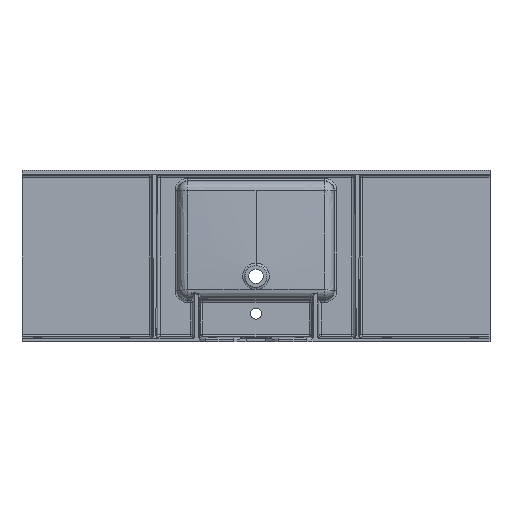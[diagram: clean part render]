
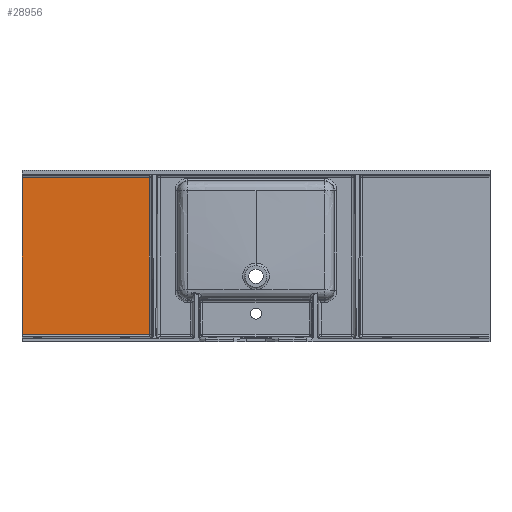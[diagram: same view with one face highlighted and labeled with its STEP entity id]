
A CAD part, front view. The second image highlights one B-rep face of the part: STEP entity #28956.
In plain terms, the highlighted planar face has unit normal (0, -1, 0).
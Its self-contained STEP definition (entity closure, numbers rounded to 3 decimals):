
#774 = DIRECTION ( 'NONE',  ( 0., 0., 1. ) ) ;
#1277 = VERTEX_POINT ( 'NONE', #11926 ) ;
#1398 = VERTEX_POINT ( 'NONE', #14676 ) ;
#1490 = DIRECTION ( 'NONE',  ( 0., 0., 1. ) ) ;
#1683 = EDGE_CURVE ( 'NONE', #1398, #12742, #12519, .T. ) ;
#2517 = EDGE_LOOP ( 'NONE', ( #10794, #17497, #27596, #13047 ) ) ;
#3067 = CARTESIAN_POINT ( 'NONE',  ( -342.68, -12., 0. ) ) ;
#3508 = DIRECTION ( 'NONE',  ( 0., 0., -1. ) ) ;
#4217 = CARTESIAN_POINT ( 'NONE',  ( 0., -12., 201.32 ) ) ;
#4484 = VERTEX_POINT ( 'NONE', #23701 ) ;
#4756 = AXIS2_PLACEMENT_3D ( 'NONE', #25158, #13342, #3508 ) ;
#6674 = DIRECTION ( 'NONE',  ( -1., 0., 0. ) ) ;
#8587 = PLANE ( 'NONE',  #4756 ) ;
#9239 = EDGE_CURVE ( 'NONE', #12742, #1277, #17041, .T. ) ;
#10794 = ORIENTED_EDGE ( 'NONE', *, *, #17439, .F. ) ;
#11926 = CARTESIAN_POINT ( 'NONE',  ( -342.68, -12., 201.32 ) ) ;
#12519 = LINE ( 'NONE', #24333, #18208 ) ;
#12742 = VERTEX_POINT ( 'NONE', #20775 ) ;
#13047 = ORIENTED_EDGE ( 'NONE', *, *, #15545, .T. ) ;
#13342 = DIRECTION ( 'NONE',  ( 0., -1., 0. ) ) ;
#13588 = VECTOR ( 'NONE', #6674, 1000. ) ;
#14676 = CARTESIAN_POINT ( 'NONE',  ( -750., -12., -301.32 ) ) ;
#15545 = EDGE_CURVE ( 'NONE', #1277, #4484, #27405, .T. ) ;
#15615 = LINE ( 'NONE', #26977, #30260 ) ;
#17041 = LINE ( 'NONE', #3067, #23978 ) ;
#17439 = EDGE_CURVE ( 'NONE', #1398, #4484, #15615, .T. ) ;
#17497 = ORIENTED_EDGE ( 'NONE', *, *, #1683, .T. ) ;
#18208 = VECTOR ( 'NONE', #22498, 1000. ) ;
#20775 = CARTESIAN_POINT ( 'NONE',  ( -342.68, -12., -301.32 ) ) ;
#22498 = DIRECTION ( 'NONE',  ( 1., 0., 0. ) ) ;
#23701 = CARTESIAN_POINT ( 'NONE',  ( -750., -12., 201.32 ) ) ;
#23978 = VECTOR ( 'NONE', #774, 1000. ) ;
#24333 = CARTESIAN_POINT ( 'NONE',  ( -335.088, -12., -301.32 ) ) ;
#25158 = CARTESIAN_POINT ( 'NONE',  ( 0., -12., 0. ) ) ;
#26977 = CARTESIAN_POINT ( 'NONE',  ( -750., -12., 225. ) ) ;
#27405 = LINE ( 'NONE', #4217, #13588 ) ;
#27596 = ORIENTED_EDGE ( 'NONE', *, *, #9239, .T. ) ;
#28956 = ADVANCED_FACE ( 'NONE', ( #29615 ), #8587, .T. ) ;
#29615 = FACE_OUTER_BOUND ( 'NONE', #2517, .T. ) ;
#30260 = VECTOR ( 'NONE', #1490, 1000. ) ;
